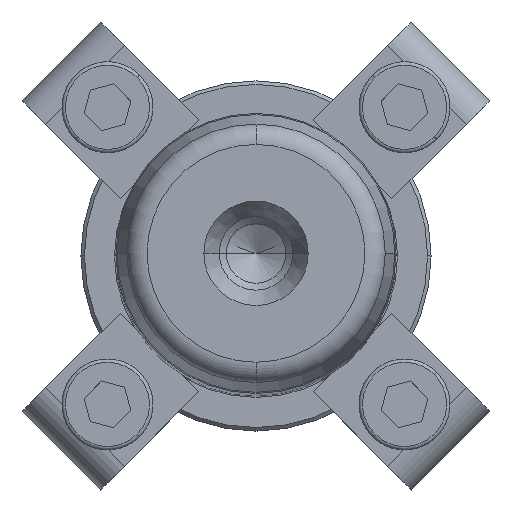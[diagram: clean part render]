
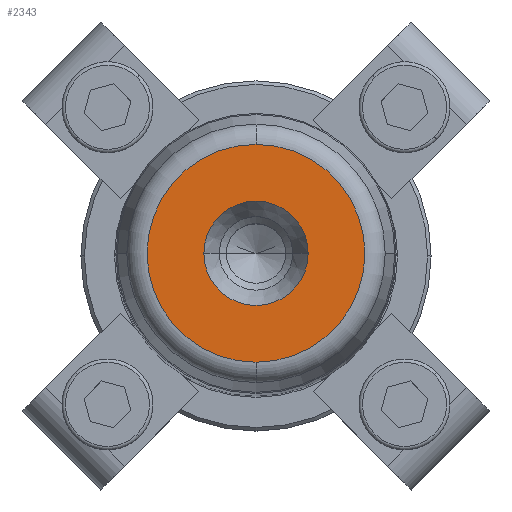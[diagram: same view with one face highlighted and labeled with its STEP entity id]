
A CAD part, top view. The second image highlights one B-rep face of the part: STEP entity #2343.
In plain terms, the highlighted planar face has unit normal (0, 0, 1).
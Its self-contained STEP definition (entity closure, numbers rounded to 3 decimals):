
#431=CARTESIAN_POINT('',(7.45,0.,220.0));
#432=VERTEX_POINT('',#431);
#439=CARTESIAN_POINT('',(-7.45,0.,220.0));
#440=VERTEX_POINT('',#439);
#441=CARTESIAN_POINT('',(0.0,0.,220.0));
#442=DIRECTION('',(0.0,0.0,1.0));
#443=DIRECTION('',(1.0,0.0,0.0));
#444=AXIS2_PLACEMENT_3D('',#441,#442,#443);
#445=CIRCLE('',#444,7.45);
#446=EDGE_CURVE('',#432,#440,#445,.T.);
#463=CARTESIAN_POINT('',(0.0,-15.554,220.));
#464=VERTEX_POINT('',#463);
#474=CARTESIAN_POINT('',(0.,15.554,220.0));
#475=VERTEX_POINT('',#474);
#476=CARTESIAN_POINT('',(0.0,0.,220.0));
#477=DIRECTION('',(0.0,0.0,1.0));
#478=DIRECTION('',(1.0,0.0,0.0));
#479=AXIS2_PLACEMENT_3D('',#476,#477,#478);
#480=CIRCLE('',#479,15.554);
#481=EDGE_CURVE('',#475,#464,#480,.T.);
#2304=CARTESIAN_POINT('',(15.554,0.,220.));
#2305=VERTEX_POINT('',#2304);
#2306=CARTESIAN_POINT('',(0.0,0.,220.0));
#2307=DIRECTION('',(0.0,0.0,1.0));
#2308=DIRECTION('',(1.0,0.0,0.0));
#2309=AXIS2_PLACEMENT_3D('',#2306,#2307,#2308);
#2310=CIRCLE('',#2309,15.554);
#2311=EDGE_CURVE('',#2305,#475,#2310,.T.);
#2313=CARTESIAN_POINT('',(0.0,0.,220.0));
#2314=DIRECTION('',(0.0,0.0,1.0));
#2315=DIRECTION('',(1.0,0.0,0.0));
#2316=AXIS2_PLACEMENT_3D('',#2313,#2314,#2315);
#2317=CIRCLE('',#2316,15.554);
#2318=EDGE_CURVE('',#464,#2305,#2317,.T.);
#2323=CARTESIAN_POINT('',(11.502,0.,220.0));
#2324=DIRECTION('',(0.0,0.0,1.0));
#2325=DIRECTION('',(0.0,-1.0,0.0));
#2326=AXIS2_PLACEMENT_3D('',#2323,#2324,#2325);
#2327=PLANE('',#2326);
#2328=ORIENTED_EDGE('',*,*,#2311,.T.);
#2329=ORIENTED_EDGE('',*,*,#481,.T.);
#2330=ORIENTED_EDGE('',*,*,#2318,.T.);
#2331=EDGE_LOOP('',(#2328,#2329,#2330));
#2332=FACE_OUTER_BOUND('',#2331,.T.);
#2333=ORIENTED_EDGE('',*,*,#446,.F.);
#2334=CARTESIAN_POINT('',(0.0,0.,220.0));
#2335=DIRECTION('',(0.0,0.0,1.0));
#2336=DIRECTION('',(1.0,0.0,0.0));
#2337=AXIS2_PLACEMENT_3D('',#2334,#2335,#2336);
#2338=CIRCLE('',#2337,7.45);
#2339=EDGE_CURVE('',#440,#432,#2338,.T.);
#2340=ORIENTED_EDGE('',*,*,#2339,.F.);
#2341=EDGE_LOOP('',(#2333,#2340));
#2342=FACE_BOUND('',#2341,.T.);
#2343=ADVANCED_FACE('',(#2332,#2342),#2327,.T.);
